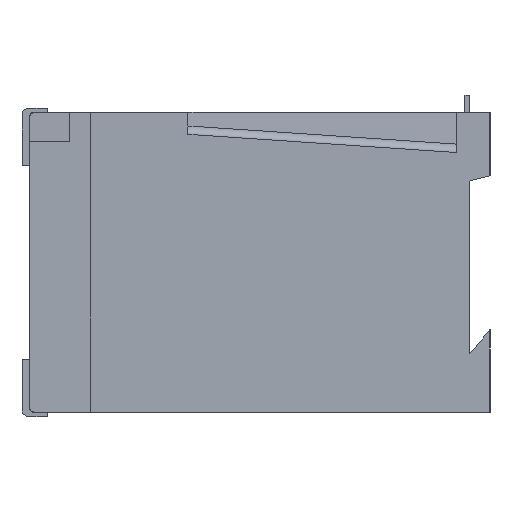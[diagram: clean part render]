
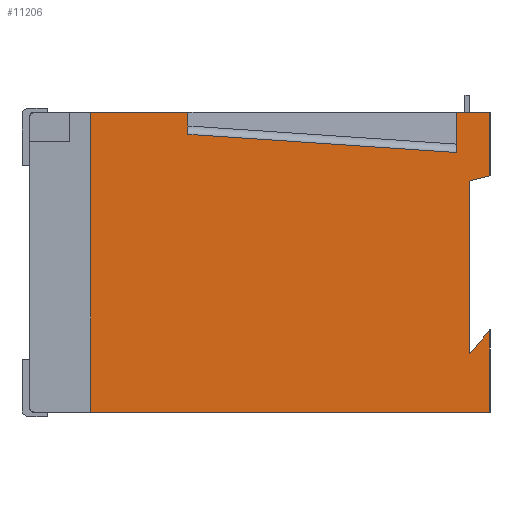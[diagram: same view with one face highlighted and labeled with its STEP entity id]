
A CAD part, left-side view. The second image highlights one B-rep face of the part: STEP entity #11206.
In plain terms, the highlighted planar face has unit normal (-1, 0, 0).
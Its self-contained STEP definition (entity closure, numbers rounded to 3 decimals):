
#26 = VECTOR ( 'NONE', #12821, 1000. ) ;
#79 = VERTEX_POINT ( 'NONE', #11129 ) ;
#756 = CARTESIAN_POINT ( 'NONE',  ( -157.128, -28.537, 1033.5 ) ) ;
#775 = ORIENTED_EDGE ( 'NONE', *, *, #797, .F. ) ;
#797 = EDGE_CURVE ( 'NONE', #11233, #11360, #4280, .T. ) ;
#1131 = VECTOR ( 'NONE', #5761, 1000. ) ;
#1670 = LINE ( 'NONE', #12876, #6603 ) ;
#1788 = CARTESIAN_POINT ( 'NONE',  ( -157.128, 65.963, 962.5 ) ) ;
#1851 = VECTOR ( 'NONE', #8026, 1000. ) ;
#1886 = ORIENTED_EDGE ( 'NONE', *, *, #5290, .F. ) ;
#1903 = VERTEX_POINT ( 'NONE', #7780 ) ;
#1922 = VERTEX_POINT ( 'NONE', #7831 ) ;
#1937 = CARTESIAN_POINT ( 'NONE',  ( -157.128, -20.537, 1033.5 ) ) ;
#1948 = CARTESIAN_POINT ( 'NONE',  ( -157.128, 80.463, 1033.5 ) ) ;
#1962 = VECTOR ( 'NONE', #5748, 1000. ) ;
#2393 = LINE ( 'NONE', #4544, #3899 ) ;
#2649 = EDGE_CURVE ( 'NONE', #3817, #10803, #1670, .T. ) ;
#2682 = EDGE_CURVE ( 'NONE', #2809, #9271, #12060, .T. ) ;
#2809 = VERTEX_POINT ( 'NONE', #9310 ) ;
#2900 = DIRECTION ( 'NONE',  ( 0., 0., -1. ) ) ;
#2926 = EDGE_CURVE ( 'NONE', #5814, #79, #12933, .T. ) ;
#2961 = DIRECTION ( 'NONE',  ( 0., 0., 1. ) ) ;
#2980 = EDGE_CURVE ( 'NONE', #9271, #1903, #5549, .T. ) ;
#3269 = ORIENTED_EDGE ( 'NONE', *, *, #6013, .F. ) ;
#3277 = EDGE_CURVE ( 'NONE', #1922, #5814, #10669, .T. ) ;
#3463 = CARTESIAN_POINT ( 'NONE',  ( -157.128, 65.963, 1033.5 ) ) ;
#3486 = EDGE_CURVE ( 'NONE', #11360, #79, #10202, .T. ) ;
#3514 = EDGE_CURVE ( 'NONE', #9870, #1903, #11060, .T. ) ;
#3626 = CARTESIAN_POINT ( 'NONE',  ( -157.128, 80.463, 1033.5 ) ) ;
#3817 = VERTEX_POINT ( 'NONE', #11272 ) ;
#3899 = VECTOR ( 'NONE', #9545, 1000. ) ;
#3909 = DIRECTION ( 'NONE',  ( 0., 0., 1. ) ) ;
#4005 = VERTEX_POINT ( 'NONE', #1937 ) ;
#4094 = CARTESIAN_POINT ( 'NONE',  ( -157.128, -23.787, 976.5 ) ) ;
#4245 = VECTOR ( 'NONE', #2900, 1000. ) ;
#4280 = LINE ( 'NONE', #4687, #1962 ) ;
#4433 = ORIENTED_EDGE ( 'NONE', *, *, #12753, .T. ) ;
#4544 = CARTESIAN_POINT ( 'NONE',  ( -157.128, -23.787, 1017.25 ) ) ;
#4566 = DIRECTION ( 'NONE',  ( 0., -0.654, 0.757 ) ) ;
#4687 = CARTESIAN_POINT ( 'NONE',  ( -157.128, 65.963, 962.5 ) ) ;
#4707 = LINE ( 'NONE', #3626, #1131 ) ;
#4934 = ORIENTED_EDGE ( 'NONE', *, *, #3486, .F. ) ;
#5048 = ORIENTED_EDGE ( 'NONE', *, *, #2980, .F. ) ;
#5290 = EDGE_CURVE ( 'NONE', #3817, #2809, #2393, .T. ) ;
#5549 = LINE ( 'NONE', #5623, #6833 ) ;
#5623 = CARTESIAN_POINT ( 'NONE',  ( -157.128, -28.537, 982. ) ) ;
#5639 = VECTOR ( 'NONE', #11326, 1000. ) ;
#5748 = DIRECTION ( 'NONE',  ( 0., 0., 1. ) ) ;
#5761 = DIRECTION ( 'NONE',  ( 0., -1., 0. ) ) ;
#5814 = VERTEX_POINT ( 'NONE', #10605 ) ;
#6001 = DIRECTION ( 'NONE',  ( 1., 0., 0. ) ) ;
#6013 = EDGE_CURVE ( 'NONE', #4005, #10803, #4707, .T. ) ;
#6529 = DIRECTION ( 'NONE',  ( 0., 0.998, 0.068 ) ) ;
#6603 = VECTOR ( 'NONE', #3909, 1000. ) ;
#6668 = LINE ( 'NONE', #8661, #26 ) ;
#6833 = VECTOR ( 'NONE', #4566, 1000. ) ;
#6883 = CARTESIAN_POINT ( 'NONE',  ( -157.128, -28.537, 962.5 ) ) ;
#6976 = ORIENTED_EDGE ( 'NONE', *, *, #2926, .T. ) ;
#7200 = VECTOR ( 'NONE', #2961, 1000. ) ;
#7251 = CARTESIAN_POINT ( 'NONE',  ( -157.128, 80.463, 962.5 ) ) ;
#7547 = AXIS2_PLACEMENT_3D ( 'NONE', #11963, #6001, #13129 ) ;
#7657 = EDGE_LOOP ( 'NONE', ( #775, #4433, #13061, #5048, #12131, #1886, #12584, #3269, #8042, #12171, #6976, #4934 ) ) ;
#7780 = CARTESIAN_POINT ( 'NONE',  ( -157.128, -28.537, 982. ) ) ;
#7831 = CARTESIAN_POINT ( 'NONE',  ( -157.128, -20.537, 1024. ) ) ;
#7868 = VECTOR ( 'NONE', #6529, 1000. ) ;
#8026 = DIRECTION ( 'NONE',  ( 0., -1., 0. ) ) ;
#8042 = ORIENTED_EDGE ( 'NONE', *, *, #10893, .F. ) ;
#8306 = LINE ( 'NONE', #7251, #5639 ) ;
#8515 = CARTESIAN_POINT ( 'NONE',  ( -157.128, -20.537, 1024. ) ) ;
#8661 = CARTESIAN_POINT ( 'NONE',  ( -157.128, -20.537, 1033.5 ) ) ;
#8763 = DIRECTION ( 'NONE',  ( 0., 0., 1. ) ) ;
#9271 = VERTEX_POINT ( 'NONE', #9611 ) ;
#9310 = CARTESIAN_POINT ( 'NONE',  ( -157.128, -23.787, 1017.25 ) ) ;
#9545 = DIRECTION ( 'NONE',  ( 0., 0.967, -0.254 ) ) ;
#9611 = CARTESIAN_POINT ( 'NONE',  ( -157.128, -23.787, 976.5 ) ) ;
#9870 = VERTEX_POINT ( 'NONE', #6883 ) ;
#10202 = LINE ( 'NONE', #1948, #1851 ) ;
#10581 = FACE_OUTER_BOUND ( 'NONE', #7657, .T. ) ;
#10605 = CARTESIAN_POINT ( 'NONE',  ( -157.128, 42.963, 1028.3 ) ) ;
#10669 = LINE ( 'NONE', #8515, #7868 ) ;
#10803 = VERTEX_POINT ( 'NONE', #756 ) ;
#10893 = EDGE_CURVE ( 'NONE', #1922, #4005, #6668, .T. ) ;
#11060 = LINE ( 'NONE', #12124, #7200 ) ;
#11129 = CARTESIAN_POINT ( 'NONE',  ( -157.128, 42.963, 1033.5 ) ) ;
#11206 = ADVANCED_FACE ( 'NONE', ( #10581 ), #12774, .F. ) ;
#11233 = VERTEX_POINT ( 'NONE', #1788 ) ;
#11272 = CARTESIAN_POINT ( 'NONE',  ( -157.128, -28.537, 1018.5 ) ) ;
#11326 = DIRECTION ( 'NONE',  ( 0., -1., 0. ) ) ;
#11360 = VERTEX_POINT ( 'NONE', #3463 ) ;
#11844 = CARTESIAN_POINT ( 'NONE',  ( -157.128, 42.963, 1033.5 ) ) ;
#11963 = CARTESIAN_POINT ( 'NONE',  ( -157.128, 80.463, 962.5 ) ) ;
#12060 = LINE ( 'NONE', #4094, #4245 ) ;
#12124 = CARTESIAN_POINT ( 'NONE',  ( -157.128, -28.537, 962.5 ) ) ;
#12131 = ORIENTED_EDGE ( 'NONE', *, *, #2682, .F. ) ;
#12171 = ORIENTED_EDGE ( 'NONE', *, *, #3277, .T. ) ;
#12383 = VECTOR ( 'NONE', #8763, 1000. ) ;
#12584 = ORIENTED_EDGE ( 'NONE', *, *, #2649, .T. ) ;
#12753 = EDGE_CURVE ( 'NONE', #11233, #9870, #8306, .T. ) ;
#12774 = PLANE ( 'NONE',  #7547 ) ;
#12821 = DIRECTION ( 'NONE',  ( 0., 0., 1. ) ) ;
#12876 = CARTESIAN_POINT ( 'NONE',  ( -157.128, -28.537, 962.5 ) ) ;
#12933 = LINE ( 'NONE', #11844, #12383 ) ;
#13061 = ORIENTED_EDGE ( 'NONE', *, *, #3514, .T. ) ;
#13129 = DIRECTION ( 'NONE',  ( 0., 0., -1. ) ) ;
